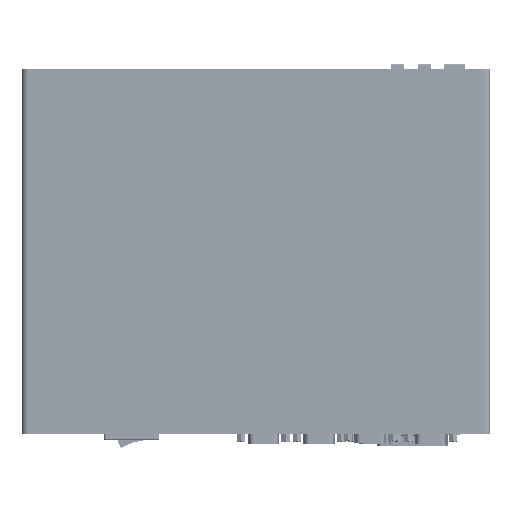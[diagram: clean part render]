
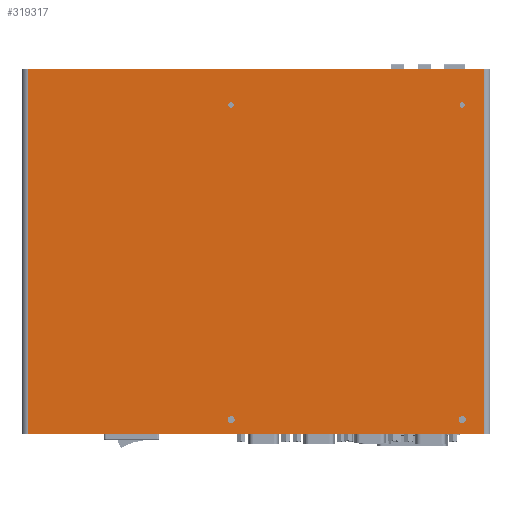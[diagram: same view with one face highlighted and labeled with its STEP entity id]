
A CAD part, front view. The second image highlights one B-rep face of the part: STEP entity #319317.
In plain terms, the highlighted planar face has unit normal (0, -1, 0) as drawn and (0, 0, 1) by its records, which use the part's own axes.
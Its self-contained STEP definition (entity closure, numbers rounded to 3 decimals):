
#14358=CIRCLE('',#343468,1.5);
#14361=CIRCLE('',#343472,1.5);
#14364=CIRCLE('',#343476,1.5);
#14367=CIRCLE('',#343480,1.5);
#23613=FACE_BOUND('',#47611,.T.);
#23614=FACE_BOUND('',#47612,.T.);
#23615=FACE_BOUND('',#47613,.T.);
#23616=FACE_BOUND('',#47614,.T.);
#30937=FACE_OUTER_BOUND('',#47610,.T.);
#47610=EDGE_LOOP('',(#214816,#214817,#214818,#214819));
#47611=EDGE_LOOP('',(#214820));
#47612=EDGE_LOOP('',(#214821));
#47613=EDGE_LOOP('',(#214822));
#47614=EDGE_LOOP('',(#214823));
#68062=LINE('',#477305,#101214);
#68078=LINE('',#477346,#101230);
#68093=LINE('',#477381,#101245);
#68095=LINE('',#477384,#101247);
#101214=VECTOR('',#376208,10.);
#101230=VECTOR('',#376250,10.);
#101245=VECTOR('',#376289,10.);
#101247=VECTOR('',#376293,10.);
#134120=VERTEX_POINT('',#477143);
#134123=VERTEX_POINT('',#477151);
#134126=VERTEX_POINT('',#477159);
#134129=VERTEX_POINT('',#477167);
#134180=VERTEX_POINT('',#477302);
#134181=VERTEX_POINT('',#477304);
#134192=VERTEX_POINT('',#477343);
#134193=VERTEX_POINT('',#477345);
#165509=EDGE_CURVE('',#134120,#134120,#14358,.T.);
#165513=EDGE_CURVE('',#134123,#134123,#14361,.T.);
#165517=EDGE_CURVE('',#134126,#134126,#14364,.T.);
#165521=EDGE_CURVE('',#134129,#134129,#14367,.T.);
#165588=EDGE_CURVE('',#134181,#134180,#68062,.T.);
#165608=EDGE_CURVE('',#134193,#134192,#68078,.T.);
#165626=EDGE_CURVE('',#134181,#134192,#68093,.T.);
#165628=EDGE_CURVE('',#134193,#134180,#68095,.T.);
#214816=ORIENTED_EDGE('',*,*,#165588,.T.);
#214817=ORIENTED_EDGE('',*,*,#165628,.F.);
#214818=ORIENTED_EDGE('',*,*,#165608,.T.);
#214819=ORIENTED_EDGE('',*,*,#165626,.F.);
#214820=ORIENTED_EDGE('',*,*,#165509,.T.);
#214821=ORIENTED_EDGE('',*,*,#165513,.T.);
#214822=ORIENTED_EDGE('',*,*,#165517,.T.);
#214823=ORIENTED_EDGE('',*,*,#165521,.T.);
#297103=PLANE('',#343572);
#319317=ADVANCED_FACE('',(#30937,#23613,#23614,#23615,#23616),#297103,.T.);
#343468=AXIS2_PLACEMENT_3D('',#477145,#376030,#376031);
#343472=AXIS2_PLACEMENT_3D('',#477153,#376039,#376040);
#343476=AXIS2_PLACEMENT_3D('',#477161,#376048,#376049);
#343480=AXIS2_PLACEMENT_3D('',#477169,#376057,#376058);
#343572=AXIS2_PLACEMENT_3D('',#477383,#376291,#376292);
#376030=DIRECTION('center_axis',(0.,0.,-1.));
#376031=DIRECTION('ref_axis',(-1.,0.,0.));
#376039=DIRECTION('center_axis',(0.,0.,-1.));
#376040=DIRECTION('ref_axis',(-1.,0.,0.));
#376048=DIRECTION('center_axis',(0.,0.,-1.));
#376049=DIRECTION('ref_axis',(-1.,0.,0.));
#376057=DIRECTION('center_axis',(0.,0.,-1.));
#376058=DIRECTION('ref_axis',(-1.,0.,0.));
#376208=DIRECTION('',(0.,-1.,0.));
#376250=DIRECTION('',(0.,1.,0.));
#376289=DIRECTION('',(1.,0.,0.));
#376291=DIRECTION('center_axis',(0.,0.,1.));
#376292=DIRECTION('ref_axis',(1.,0.,0.));
#376293=DIRECTION('',(-1.,0.,0.));
#477143=CARTESIAN_POINT('',(117.5,-94.5,0.));
#477145=CARTESIAN_POINT('Origin',(116.,-94.5,0.));
#477151=CARTESIAN_POINT('',(-12.5,82.5,0.));
#477153=CARTESIAN_POINT('Origin',(-14.,82.5,0.));
#477159=CARTESIAN_POINT('',(117.5,82.5,0.));
#477161=CARTESIAN_POINT('Origin',(116.,82.5,0.));
#477167=CARTESIAN_POINT('',(-12.5,-94.5,0.));
#477169=CARTESIAN_POINT('Origin',(-14.,-94.5,0.));
#477302=CARTESIAN_POINT('',(-128.4,-102.5,0.));
#477304=CARTESIAN_POINT('',(-128.4,102.5,0.));
#477305=CARTESIAN_POINT('',(-128.4,51.25,0.));
#477343=CARTESIAN_POINT('',(128.4,102.5,0.));
#477345=CARTESIAN_POINT('',(128.4,-102.5,0.));
#477346=CARTESIAN_POINT('',(128.4,-51.25,0.));
#477381=CARTESIAN_POINT('',(-131.6,102.5,0.));
#477383=CARTESIAN_POINT('Origin',(0.,0.,
0.));
#477384=CARTESIAN_POINT('',(131.6,-102.5,0.));
